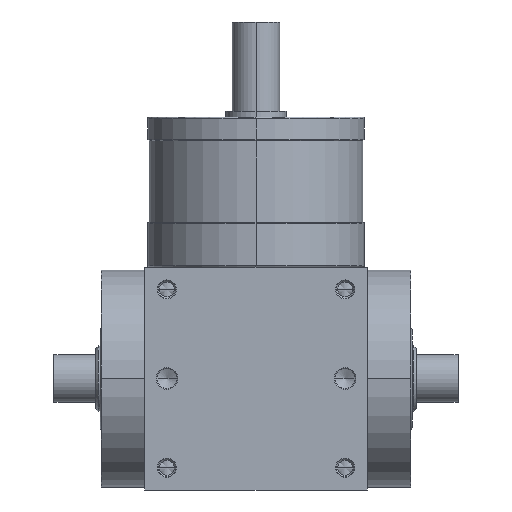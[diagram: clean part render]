
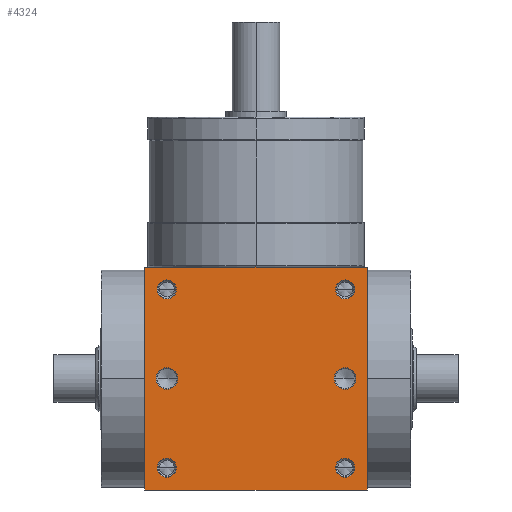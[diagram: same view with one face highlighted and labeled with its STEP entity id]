
A CAD part, front view. The second image highlights one B-rep face of the part: STEP entity #4324.
In plain terms, the highlighted planar face has unit normal (0, -1, 0).
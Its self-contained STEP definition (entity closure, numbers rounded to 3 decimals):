
#5=DIRECTION('',(1.,0.,0.));
#6=VECTOR('',#5,75.);
#7=CARTESIAN_POINT('',(-37.5,-37.5,-37.5));
#8=LINE('',#7,#6);
#155=DIRECTION('',(0.,0.,1.));
#156=VECTOR('',#155,75.);
#157=CARTESIAN_POINT('',(37.5,-37.5,-37.5));
#158=LINE('',#157,#156);
#209=DIRECTION('',(0.,0.,1.));
#210=VECTOR('',#209,75.);
#211=CARTESIAN_POINT('',(-37.5,-37.5,-37.5));
#212=LINE('',#211,#210);
#213=CARTESIAN_POINT('',(30.,-37.5,30.));
#214=DIRECTION('',(0.,1.,0.));
#215=DIRECTION('',(-1.,0.,0.));
#216=AXIS2_PLACEMENT_3D('',#213,#214,#215);
#218=CARTESIAN_POINT('',(30.,-37.5,30.));
#219=DIRECTION('',(0.,1.,0.));
#220=DIRECTION('',(1.,0.,0.));
#221=AXIS2_PLACEMENT_3D('',#218,#219,#220);
#223=CARTESIAN_POINT('',(-30.,-37.5,30.));
#224=DIRECTION('',(0.,1.,0.));
#225=DIRECTION('',(-1.,0.,0.));
#226=AXIS2_PLACEMENT_3D('',#223,#224,#225);
#228=CARTESIAN_POINT('',(-30.,-37.5,30.));
#229=DIRECTION('',(0.,1.,0.));
#230=DIRECTION('',(1.,0.,0.));
#231=AXIS2_PLACEMENT_3D('',#228,#229,#230);
#233=CARTESIAN_POINT('',(30.,-37.5,-30.));
#234=DIRECTION('',(0.,1.,0.));
#235=DIRECTION('',(-1.,0.,0.));
#236=AXIS2_PLACEMENT_3D('',#233,#234,#235);
#238=CARTESIAN_POINT('',(30.,-37.5,-30.));
#239=DIRECTION('',(0.,1.,0.));
#240=DIRECTION('',(1.,0.,0.));
#241=AXIS2_PLACEMENT_3D('',#238,#239,#240);
#243=CARTESIAN_POINT('',(-30.,-37.5,-30.));
#244=DIRECTION('',(0.,1.,0.));
#245=DIRECTION('',(-1.,0.,0.));
#246=AXIS2_PLACEMENT_3D('',#243,#244,#245);
#248=CARTESIAN_POINT('',(-30.,-37.5,-30.));
#249=DIRECTION('',(0.,1.,0.));
#250=DIRECTION('',(1.,0.,0.));
#251=AXIS2_PLACEMENT_3D('',#248,#249,#250);
#253=CARTESIAN_POINT('',(-30.,-37.5,0.));
#254=DIRECTION('',(0.,1.,0.));
#255=DIRECTION('',(1.,0.,0.));
#256=AXIS2_PLACEMENT_3D('',#253,#254,#255);
#258=CARTESIAN_POINT('',(-30.,-37.5,0.));
#259=DIRECTION('',(0.,1.,0.));
#260=DIRECTION('',(-1.,0.,0.));
#261=AXIS2_PLACEMENT_3D('',#258,#259,#260);
#263=CARTESIAN_POINT('',(30.,-37.5,0.));
#264=DIRECTION('',(0.,1.,0.));
#265=DIRECTION('',(1.,0.,0.));
#266=AXIS2_PLACEMENT_3D('',#263,#264,#265);
#268=CARTESIAN_POINT('',(30.,-37.5,0.));
#269=DIRECTION('',(0.,1.,0.));
#270=DIRECTION('',(-1.,0.,0.));
#271=AXIS2_PLACEMENT_3D('',#268,#269,#270);
#285=DIRECTION('',(1.,0.,0.));
#286=VECTOR('',#285,75.);
#287=CARTESIAN_POINT('',(-37.5,-37.5,37.5));
#288=LINE('',#287,#286);
#3490=CARTESIAN_POINT('',(-37.5,-37.5,-37.5));
#3492=VERTEX_POINT('',#3490);
#3493=CARTESIAN_POINT('',(37.5,-37.5,-37.5));
#3494=VERTEX_POINT('',#3493);
#3498=CARTESIAN_POINT('',(-37.5,-37.5,37.5));
#3500=VERTEX_POINT('',#3498);
#3501=CARTESIAN_POINT('',(37.5,-37.5,37.5));
#3502=VERTEX_POINT('',#3501);
#3657=CARTESIAN_POINT('',(26.8,-37.5,30.));
#3658=CARTESIAN_POINT('',(33.2,-37.5,30.));
#3659=VERTEX_POINT('',#3657);
#3660=VERTEX_POINT('',#3658);
#3665=CARTESIAN_POINT('',(-33.2,-37.5,30.));
#3666=CARTESIAN_POINT('',(-26.8,-37.5,30.));
#3667=VERTEX_POINT('',#3665);
#3668=VERTEX_POINT('',#3666);
#3673=CARTESIAN_POINT('',(26.8,-37.5,-30.));
#3674=CARTESIAN_POINT('',(33.2,-37.5,-30.));
#3675=VERTEX_POINT('',#3673);
#3676=VERTEX_POINT('',#3674);
#3681=CARTESIAN_POINT('',(-33.2,-37.5,-30.));
#3682=CARTESIAN_POINT('',(-26.8,-37.5,-30.));
#3683=VERTEX_POINT('',#3681);
#3684=VERTEX_POINT('',#3682);
#4005=CARTESIAN_POINT('',(-26.35,-37.5,0.));
#4006=CARTESIAN_POINT('',(-33.65,-37.5,
0.));
#4007=VERTEX_POINT('',#4005);
#4008=VERTEX_POINT('',#4006);
#4013=CARTESIAN_POINT('',(33.65,-37.5,0.));
#4014=CARTESIAN_POINT('',(26.35,-37.5,0.));
#4015=VERTEX_POINT('',#4013);
#4016=VERTEX_POINT('',#4014);
#4276=CARTESIAN_POINT('',(-37.5,-37.5,-37.5));
#4277=DIRECTION('',(0.,-1.,0.));
#4278=DIRECTION('',(1.,0.,0.));
#4279=AXIS2_PLACEMENT_3D('',#4276,#4277,#4278);
#4280=PLANE('',#4279);
#4281=ORIENTED_EDGE('',*,*,#4116,.F.);
#4282=ORIENTED_EDGE('',*,*,#4159,.T.);
#4284=ORIENTED_EDGE('',*,*,#4283,.T.);
#4285=ORIENTED_EDGE('',*,*,#4238,.F.);
#4286=EDGE_LOOP('',(#4281,#4282,#4284,#4285));
#4287=FACE_OUTER_BOUND('',#4286,.F.);
#4289=ORIENTED_EDGE('',*,*,#4288,.F.);
#4291=ORIENTED_EDGE('',*,*,#4290,.F.);
#4292=EDGE_LOOP('',(#4289,#4291));
#4293=FACE_BOUND('',#4292,.F.);
#4295=ORIENTED_EDGE('',*,*,#4294,.F.);
#4297=ORIENTED_EDGE('',*,*,#4296,.F.);
#4298=EDGE_LOOP('',(#4295,#4297));
#4299=FACE_BOUND('',#4298,.F.);
#4301=ORIENTED_EDGE('',*,*,#4300,.F.);
#4303=ORIENTED_EDGE('',*,*,#4302,.F.);
#4304=EDGE_LOOP('',(#4301,#4303));
#4305=FACE_BOUND('',#4304,.F.);
#4307=ORIENTED_EDGE('',*,*,#4306,.F.);
#4309=ORIENTED_EDGE('',*,*,#4308,.F.);
#4310=EDGE_LOOP('',(#4307,#4309));
#4311=FACE_BOUND('',#4310,.F.);
#4313=ORIENTED_EDGE('',*,*,#4312,.F.);
#4315=ORIENTED_EDGE('',*,*,#4314,.F.);
#4316=EDGE_LOOP('',(#4313,#4315));
#4317=FACE_BOUND('',#4316,.F.);
#4319=ORIENTED_EDGE('',*,*,#4318,.F.);
#4321=ORIENTED_EDGE('',*,*,#4320,.F.);
#4322=EDGE_LOOP('',(#4319,#4321));
#4323=FACE_BOUND('',#4322,.F.);
#4324=ADVANCED_FACE('',(#4287,#4293,#4299,#4305,#4311,#4317,#4323),#4280,.T.);
#217=CIRCLE('',#216,3.2);
#222=CIRCLE('',#221,3.2);
#227=CIRCLE('',#226,3.2);
#232=CIRCLE('',#231,3.2);
#237=CIRCLE('',#236,3.2);
#242=CIRCLE('',#241,3.2);
#247=CIRCLE('',#246,3.2);
#252=CIRCLE('',#251,3.2);
#257=CIRCLE('',#256,3.65);
#262=CIRCLE('',#261,3.65);
#267=CIRCLE('',#266,3.65);
#272=CIRCLE('',#271,3.65);
#4116=EDGE_CURVE('',#3492,#3494,#8,.T.);
#4159=EDGE_CURVE('',#3492,#3500,#212,.T.);
#4238=EDGE_CURVE('',#3494,#3502,#158,.T.);
#4283=EDGE_CURVE('',#3500,#3502,#288,.T.);
#4288=EDGE_CURVE('',#3659,#3660,#217,.T.);
#4290=EDGE_CURVE('',#3660,#3659,#222,.T.);
#4294=EDGE_CURVE('',#3667,#3668,#227,.T.);
#4296=EDGE_CURVE('',#3668,#3667,#232,.T.);
#4300=EDGE_CURVE('',#3675,#3676,#237,.T.);
#4302=EDGE_CURVE('',#3676,#3675,#242,.T.);
#4306=EDGE_CURVE('',#3683,#3684,#247,.T.);
#4308=EDGE_CURVE('',#3684,#3683,#252,.T.);
#4312=EDGE_CURVE('',#4007,#4008,#257,.T.);
#4314=EDGE_CURVE('',#4008,#4007,#262,.T.);
#4318=EDGE_CURVE('',#4015,#4016,#267,.T.);
#4320=EDGE_CURVE('',#4016,#4015,#272,.T.);
